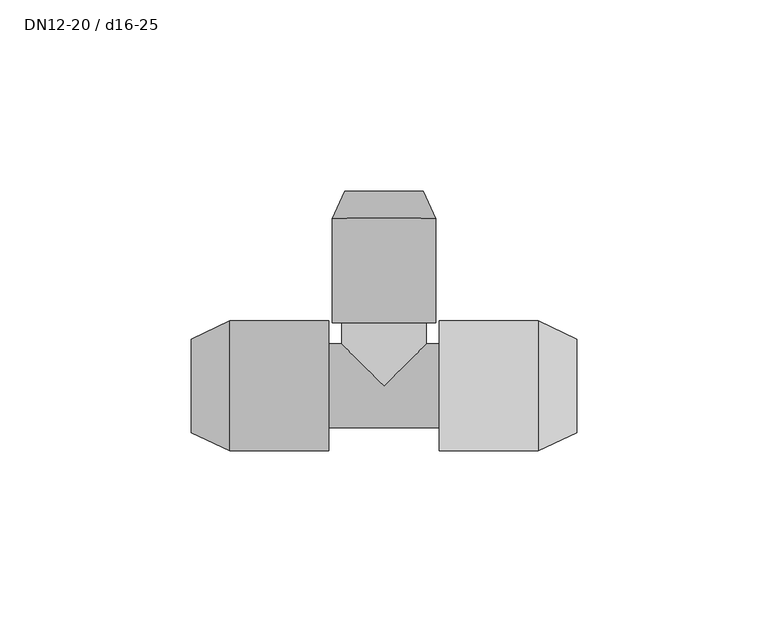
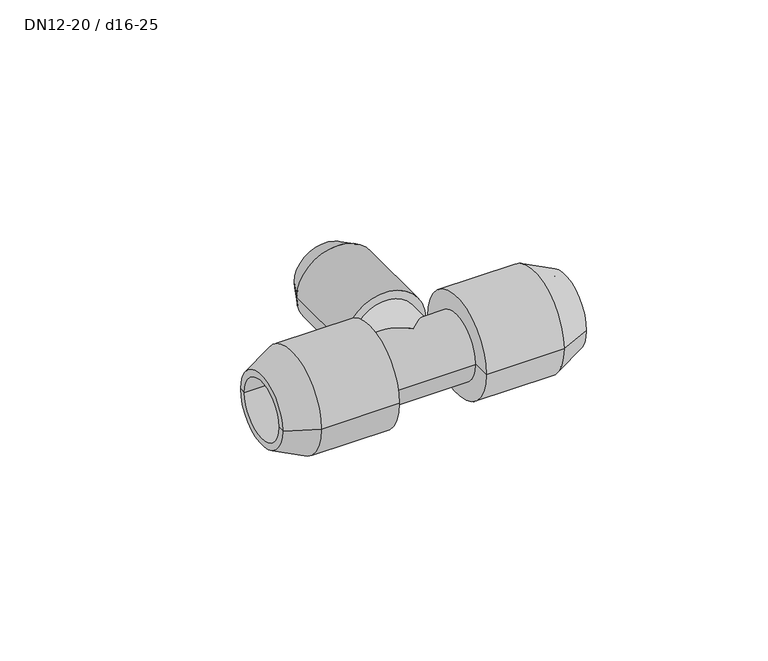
"""IFC4 building model written with IfcOpenShell, lengths in millimetres: pipe fitting geometry, NLRS_50_PIF_UN_PushFit T-stuk_geb : DN12-20 / d16-25."""

from ifc_helpers import new_model, si_unit, frame, origin, place, context, project, spatial, polyline, circle_curve, ellipse_curve, source, transform, mapped, element, save
from ifc_brep_helpers import plane_surface, cylinder_surface, revolved_surface, advanced_brep


def dn12_20_d16_25_6916eeb4(model_context):
    return source(origin(), model_context, "Body", "AdvancedBrep", [
        advanced_brep(
        [(-13.6, 16.5, 0.0), (13.6, 16.5, 0.0), (0.0, 16.5, 0.0), (-13.6, 43.8159018, 0.0), (13.6, 43.8159018, 0.0), (-10.25, 51.0, 0.0), (10.25, 51.0, 0.0), (-8.0, 26.0, 0.0), (8.0, 26.0, 0.0), (8.0, 51.0, 0.0), (-8.0, 51.0, 0.0), (0.0, 26.0, 0.0)],
        [
            (0, 1, circle_curve(frame((0.0, 16.5, 0.0), z_axis=(0.0, -1.0, 0.0), x_axis=(1.0000000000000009, 0.0, 0.0)), 13.6)),
            (1, 2),
            (2, 0),
            (1, 0, circle_curve(frame((0.0, 16.5, 0.0), z_axis=(0.0, -1.0, 0.0), x_axis=(1.0000000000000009, 0.0, 0.0)), 13.6)),
            (3, 4, circle_curve(frame((0.0, 43.8159018, 0.0), z_axis=(0.0, -1.0, 0.0), x_axis=(1.0000000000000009, 0.0, 0.0)), 13.6)),
            (4, 1),
            (0, 3),
            (4, 3, circle_curve(frame((0.0, 43.8159018, 0.0), z_axis=(0.0, -1.0, 0.0), x_axis=(1.0000000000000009, 0.0, 0.0)), 13.6)),
            (5, 6, circle_curve(frame((0.0, 51.0, 0.0), z_axis=(0.0, -1.0, 0.0), x_axis=(1.0000000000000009, 0.0, 0.0)), 10.25)),
            (6, 4),
            (3, 5),
            (6, 5, circle_curve(frame((0.0, 51.0, 0.0), z_axis=(0.0, -1.0, 0.0), x_axis=(1.0000000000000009, 0.0, 0.0)), 10.25)),
            (7, 8, circle_curve(frame((0.0, 26.0, 0.0), z_axis=(0.0, -1.0, 0.0), x_axis=(1.0000000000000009, 0.0, 0.0)), 8.0)),
            (8, 9),
            (9, 10, circle_curve(frame((0.0, 51.0, 0.0), z_axis=(0.0, 1.0, 0.0), x_axis=(1.0000000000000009, 0.0, 0.0)), 8.0)),
            (10, 7),
            (8, 7, circle_curve(frame((0.0, 26.0, 0.0), z_axis=(0.0, -1.0, 0.0), x_axis=(1.0000000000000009, 0.0, 0.0)), 8.0)),
            (10, 9, circle_curve(frame((0.0, 51.0, 0.0), z_axis=(0.0, 1.0, 0.0), x_axis=(1.0000000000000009, 0.0, 0.0)), 8.0)),
            (11, 8),
            (7, 11),
            (9, 6),
            (5, 10),
        ],
        [
            plane_surface(frame((0.0, 16.5, 0.0), z_axis=(0.0, -1.0, 0.0), x_axis=(1.0, 0.0, 0.0))),
            cylinder_surface(frame((0.0, 61.0, 0.0), z_axis=(0.0, 1.0000000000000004, 0.0), x_axis=(1.0000000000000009, 0.0, 0.0)), 13.6),
            revolved_surface(polyline([(13.6, 43.8159018, 0.0), (10.25, 51.0, 0.0)]), (0.0, 61.0, 0.0), (0.0, 1.0000000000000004, 0.0)),
            revolved_surface(polyline([(8.000000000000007, 50.99999999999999, 0.0), (8.000000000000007, 25.99999999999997, 0.0)]), (0.0, 61.0, 0.0), (0.0, 1.0000000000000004, 0.0)),
            plane_surface(frame((0.0, 26.0, 0.0), z_axis=(0.0, 1.0, 0.0), x_axis=(1.0, 0.0, 0.0))),
            plane_surface(frame((0.0, 51.0, 0.0), z_axis=(0.0, 1.0, 0.0), x_axis=(1.0, 0.0, 0.0))),
        ],
        [
            (0, [[1, 2, 3]]),
            (0, [[4, -3, -2]]),
            (1, [[5, 6, -1, 7]]),
            (1, [[8, -7, -4, -6]]),
            (2, [[9, 10, -5, 11]]),
            (2, [[12, -11, -8, -10]]),
            (3, [[13, 14, 15, 16]]),
            (3, [[17, -16, 18, -14]]),
            (4, [[19, -13, 20]]),
            (4, [[-20, -17, -19]]),
            (5, [[-15, 21, -9, 22]]),
            (5, [[-18, -22, -12, -21]]),
        ],
    ),
        advanced_brep(
        [(14.5, 17.0, 0.0), (14.5, -17.0, 0.0), (14.5, 0.0, 0.0), (40.3135921, 17.0, 0.0), (40.3135921, -17.0, 0.0), (50.5, 12.25, 0.0), (50.5, -12.25, 0.0), (25.0, 10.0, 0.0), (25.0, -10.0, 0.0), (50.5, -10.0, 0.0), (50.5, 10.0, 0.0), (25.0, 0.0, 0.0)],
        [
            (0, 1, circle_curve(frame((14.5, 0.0, 0.0), z_axis=(-1.0, 0.0, 0.0), x_axis=(0.0, -1.0000000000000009, 0.0)), 17.0)),
            (1, 2),
            (2, 0),
            (1, 0, circle_curve(frame((14.5, 0.0, 0.0), z_axis=(-1.0, 0.0, 0.0), x_axis=(0.0, -1.0000000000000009, 0.0)), 17.0)),
            (3, 4, circle_curve(frame((40.3135921, 0.0, 0.0), z_axis=(-1.0, 0.0, 0.0), x_axis=(0.0, -1.0000000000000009, 0.0)), 17.0)),
            (4, 1),
            (0, 3),
            (4, 3, circle_curve(frame((40.3135921, 0.0, 0.0), z_axis=(-1.0, 0.0, 0.0), x_axis=(0.0, -1.0000000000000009, 0.0)), 17.0)),
            (5, 6, circle_curve(frame((50.5, 0.0, 0.0), z_axis=(-1.0, 0.0, 0.0), x_axis=(0.0, -1.0000000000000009, 0.0)), 12.25)),
            (6, 4),
            (3, 5),
            (6, 5, circle_curve(frame((50.5, 0.0, 0.0), z_axis=(-1.0, 0.0, 0.0), x_axis=(0.0, -1.0000000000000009, 0.0)), 12.25)),
            (7, 8, circle_curve(frame((25.0, 0.0, 0.0), z_axis=(-1.0, 0.0, 0.0), x_axis=(0.0, -1.0000000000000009, 0.0)), 10.0)),
            (8, 9),
            (9, 10, circle_curve(frame((50.5, 0.0, 0.0), z_axis=(1.0, 0.0, 0.0), x_axis=(0.0, -1.0000000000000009, 0.0)), 10.0)),
            (10, 7),
            (8, 7, circle_curve(frame((25.0, 0.0, 0.0), z_axis=(-1.0, 0.0, 0.0), x_axis=(0.0, -1.0000000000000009, 0.0)), 10.0)),
            (10, 9, circle_curve(frame((50.5, 0.0, 0.0), z_axis=(1.0, 0.0, 0.0), x_axis=(0.0, -1.0000000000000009, 0.0)), 10.0)),
            (11, 8),
            (7, 11),
            (9, 6),
            (5, 10),
        ],
        [
            plane_surface(frame((14.5, 0.0, 0.0), z_axis=(-1.0, 0.0, 0.0), x_axis=(0.0, -1.0, 0.0))),
            cylinder_surface(frame((60.5, 0.0, 0.0), z_axis=(1.0000000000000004, 0.0, 0.0), x_axis=(0.0, -1.0000000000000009, 0.0)), 17.0),
            revolved_surface(polyline([(40.3135921, -17.0, 0.0), (50.5, -12.25, 0.0)]), (60.5, 0.0, 0.0), (1.0000000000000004, 0.0, 0.0)),
            revolved_surface(polyline([(50.49999999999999, -10.000000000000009, 0.0), (24.99999999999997, -10.000000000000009, 0.0)]), (60.5, 0.0, 0.0), (1.0000000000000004, 0.0, 0.0)),
            plane_surface(frame((25.0, 0.0, 0.0), z_axis=(1.0, 0.0, 0.0), x_axis=(0.0, -1.0, 0.0))),
            plane_surface(frame((50.5, 0.0, 0.0), z_axis=(1.0, 0.0, 0.0), x_axis=(0.0, -1.0, 0.0))),
        ],
        [
            (0, [[1, 2, 3]]),
            (0, [[4, -3, -2]]),
            (1, [[5, 6, -1, 7]]),
            (1, [[8, -7, -4, -6]]),
            (2, [[9, 10, -5, 11]]),
            (2, [[12, -11, -8, -10]]),
            (3, [[13, 14, 15, 16]]),
            (3, [[17, -16, 18, -14]]),
            (4, [[19, -13, 20]]),
            (4, [[-20, -17, -19]]),
            (5, [[-15, 21, -9, 22]]),
            (5, [[-18, -22, -12, -21]]),
        ],
    ),
        advanced_brep(
        [(-14.5, -17.0, 0.0), (-14.5, 17.0, 0.0), (-14.5, 0.0, 0.0), (-40.3135921, -17.0, 0.0), (-40.3135921, 17.0, 0.0), (-50.5, -12.25, 0.0), (-50.5, 12.25, 0.0), (-25.0, -10.0, 0.0), (-25.0, 10.0, 0.0), (-50.5, 10.0, 0.0), (-50.5, -10.0, 0.0), (-25.0, 0.0, 0.0)],
        [
            (0, 1, circle_curve(frame((-14.5, 0.0, 0.0), z_axis=(1.0, 0.0, 0.0), x_axis=(0.0, 1.0, 0.0)), 17.0)),
            (1, 2),
            (2, 0),
            (1, 0, circle_curve(frame((-14.5, 0.0, 0.0), z_axis=(1.0, 0.0, 0.0), x_axis=(0.0, 1.0, 0.0)), 17.0)),
            (3, 4, circle_curve(frame((-40.3135921, 0.0, 0.0), z_axis=(1.0, 0.0, 0.0), x_axis=(0.0, 1.0, 0.0)), 17.0)),
            (4, 1),
            (0, 3),
            (4, 3, circle_curve(frame((-40.3135921, 0.0, 0.0), z_axis=(1.0, 0.0, 0.0), x_axis=(0.0, 1.0, 0.0)), 17.0)),
            (5, 6, circle_curve(frame((-50.5, 0.0, 0.0), z_axis=(1.0, 0.0, 0.0), x_axis=(0.0, 1.0, 0.0)), 12.25)),
            (6, 4),
            (3, 5),
            (6, 5, circle_curve(frame((-50.5, 0.0, 0.0), z_axis=(1.0, 0.0, 0.0), x_axis=(0.0, 1.0, 0.0)), 12.25)),
            (7, 8, circle_curve(frame((-25.0, 0.0, 0.0), z_axis=(1.0, 0.0, 0.0), x_axis=(0.0, 1.0, 0.0)), 10.0)),
            (8, 9),
            (9, 10, circle_curve(frame((-50.5, 0.0, 0.0), z_axis=(-1.0, 0.0, 0.0), x_axis=(0.0, 1.0, 0.0)), 10.0)),
            (10, 7),
            (8, 7, circle_curve(frame((-25.0, 0.0, 0.0), z_axis=(1.0, 0.0, 0.0), x_axis=(0.0, 1.0, 0.0)), 10.0)),
            (10, 9, circle_curve(frame((-50.5, 0.0, 0.0), z_axis=(-1.0, 0.0, 0.0), x_axis=(0.0, 1.0, 0.0)), 10.0)),
            (11, 8),
            (7, 11),
            (9, 6),
            (5, 10),
        ],
        [
            plane_surface(frame((-14.5, 0.0, 0.0), z_axis=(1.0, 0.0, 0.0), x_axis=(0.0, 1.0, 0.0))),
            cylinder_surface(frame((-60.5, 0.0, 0.0), z_axis=(-1.0, 0.0, 0.0), x_axis=(0.0, 1.0, 0.0)), 17.0),
            revolved_surface(polyline([(-40.3135921, 17.0, 0.0), (-50.5, 12.25, 0.0)]), (-60.5, 0.0, 0.0), (-1.0, 0.0, 0.0)),
            revolved_surface(polyline([(-50.5, 10.0, 0.0), (-25.0, 10.0, 0.0)]), (-60.5, 0.0, 0.0), (-1.0, 0.0, 0.0)),
            plane_surface(frame((-25.0, 0.0, 0.0), z_axis=(-1.0, 0.0, 0.0), x_axis=(0.0, 1.0, 0.0))),
            plane_surface(frame((-50.5, 0.0, 0.0), z_axis=(-1.0, 0.0, 0.0), x_axis=(0.0, 1.0, 0.0))),
        ],
        [
            (0, [[1, 2, 3]]),
            (0, [[4, -3, -2]]),
            (1, [[5, 6, -1, 7]]),
            (1, [[8, -7, -4, -6]]),
            (2, [[9, 10, -5, 11]]),
            (2, [[12, -11, -8, -10]]),
            (3, [[13, 14, 15, 16]]),
            (3, [[17, -16, 18, -14]]),
            (4, [[19, -13, 20]]),
            (4, [[-20, -17, -19]]),
            (5, [[-15, 21, -9, 22]]),
            (5, [[-18, -22, -12, -21]]),
        ],
    ),
        advanced_brep(
        [(11.0, 16.5, 0.0), (-11.0, 16.5, 0.0), (-11.0, 11.0, 0.0), (0.0, 0.0, 11.0), (11.0, 11.0, 0.0), (0.0, 0.0, -11.0), (-14.5, -11.0, 0.0), (-14.5, 11.0, 0.0), (14.5, -11.0, 0.0), (14.5, 11.0, 0.0)],
        [
            (0, 1, circle_curve(frame((0.0, 16.5, 0.0), z_axis=(0.0, 1.0, 0.0), x_axis=(-1.0, 0.0, 0.0)), 11.0)),
            (1, 0, circle_curve(frame((0.0, 16.5, 0.0), z_axis=(0.0, 1.0, 0.0), x_axis=(-1.0, 0.0, 0.0)), 11.0)),
            (1, 2),
            (2, 3, ellipse_curve(frame((0.0, 0.0, 0.0), z_axis=(0.7071067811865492, 0.7071067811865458, 0.0), x_axis=(0.7071067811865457, -0.7071067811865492, 0.0)), 15.5563492, 11.0)),
            (3, 4, ellipse_curve(frame((0.0, 0.0, 0.0), z_axis=(-0.7071067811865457, 0.7071067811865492, 0.0), x_axis=(-0.7071067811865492, -0.7071067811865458, 0.0)), 15.5563492, 11.0)),
            (4, 0),
            (4, 5, ellipse_curve(frame((0.0, 0.0, 0.0), z_axis=(-0.7071067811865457, 0.7071067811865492, 0.0), x_axis=(-0.7071067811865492, -0.7071067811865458, 0.0)), 15.5563492, 11.0)),
            (5, 2, ellipse_curve(frame((0.0, 0.0, 0.0), z_axis=(0.7071067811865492, 0.7071067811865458, 0.0), x_axis=(0.7071067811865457, -0.7071067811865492, 0.0)), 15.5563492, 11.0)),
            (6, 7, circle_curve(frame((-14.5, 0.0, 0.0), z_axis=(-1.0, 0.0, 0.0), x_axis=(0.0, 1.0, 0.0)), 11.0)),
            (7, 6, circle_curve(frame((-14.5, 0.0, 0.0), z_axis=(-1.0, 0.0, 0.0), x_axis=(0.0, 1.0, 0.0)), 11.0)),
            (8, 9, circle_curve(frame((14.5, 0.0, 0.0), z_axis=(1.0, 0.0, 0.0), x_axis=(0.0, 1.0, 0.0)), 11.0)),
            (9, 8, circle_curve(frame((14.5, 0.0, 0.0), z_axis=(1.0, 0.0, 0.0), x_axis=(0.0, 1.0, 0.0)), 11.0)),
            (6, 8),
            (9, 4),
            (2, 7),
        ],
        [
            plane_surface(frame((0.0, 16.5, 0.0), z_axis=(0.0, 1.0, 0.0), x_axis=(0.0, 0.0, 1.0))),
            cylinder_surface(frame((0.0, 0.0, 0.0), z_axis=(0.0, -1.0, 0.0), x_axis=(-1.0, 0.0, 0.0)), 11.0),
            plane_surface(frame((-14.5, 0.0, 0.0), z_axis=(-1.0, 0.0, 0.0), x_axis=(0.0, 0.0, 1.0))),
            plane_surface(frame((14.5, 0.0, 0.0), z_axis=(1.0, 0.0, 0.0), x_axis=(0.0, 0.0, 1.0))),
            cylinder_surface(frame((-14.5, 0.0, 0.0), z_axis=(-1.0, 0.0, 0.0), x_axis=(0.0, 1.0, 0.0)), 11.0),
        ],
        [
            (0, [[1, 2]]),
            (1, [[-2, 3, 4, 5, 6]]),
            (1, [[-1, -6, 7, 8, -3]]),
            (2, [[9, 10]]),
            (3, [[11, 12]]),
            (4, [[-9, 13, -12, 14, -5, -4, 15]]),
            (4, [[-10, -15, -8, -7, -14, -11, -13]]),
        ],
    ),
    ])


if __name__ == "__main__":
    model = new_model("IFC4")
    model_context = context("Model", 3, world=origin())
    ifc_project = project(units=[si_unit("LENGTHUNIT", "METRE", prefix="MILLI")], contexts=[model_context])
    site = spatial("IfcSite", under=ifc_project)
    building = spatial("IfcBuilding", under=site)
    placement = place(None, origin())
    dn12_20_d16_25_shape = dn12_20_d16_25_6916eeb4(model_context)
    element("IfcPipeFitting", 1, ObjectType="NLRS_50_PIF_UN_PushFit T-stuk_geb : DN12-20 / d16-25", at=placement, inside=building, context=model_context, shape_type="MappedRepresentation", body=[
        mapped(dn12_20_d16_25_shape, transform((0.0, 0.0, 0.0), x_axis=(1.0, 0.0, 0.0), y_axis=(0.0, 1.0, 0.0), z_axis=(0.0, 0.0, 1.0))),
    ])
    save(model, "model.ifc")
